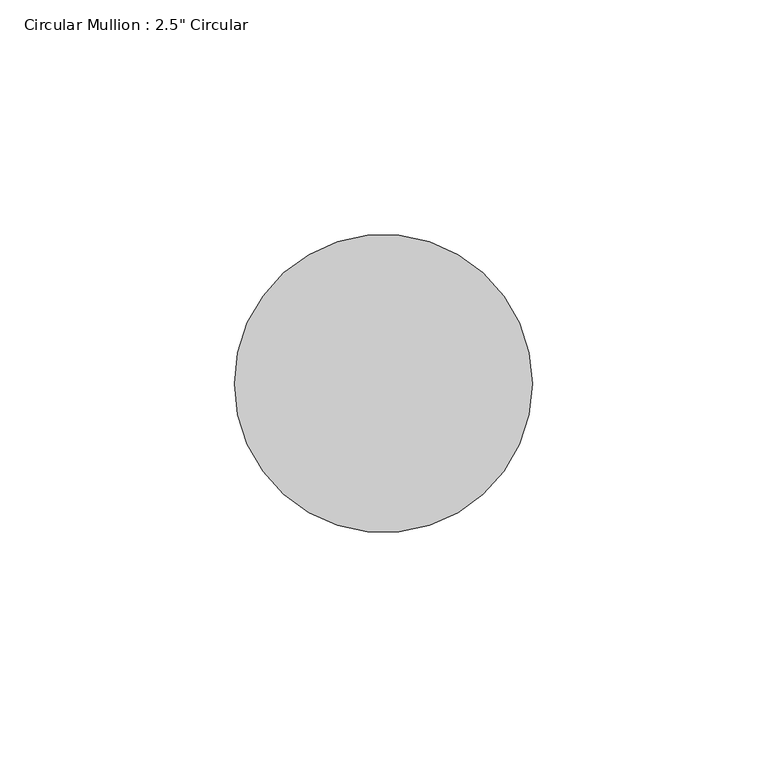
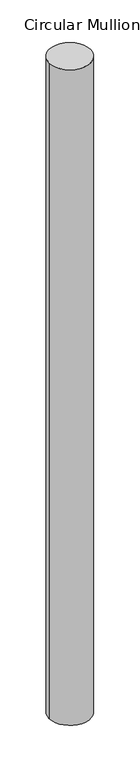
"""IFC4 building model written with IfcOpenShell, lengths in millimetres: member geometry."""

from ifc_helpers import new_model, si_unit, point, frame, frame_2d, origin, place, context, project, spatial, circle_curve, trimmed, segment, composite_curve, outline, extrude, source, transform, mapped, element, save


def member_3e583c14(model_context):
    return source(origin(), model_context, "Body", "SweptSolid", [
        extrude(outline(composite_curve([segment(trimmed(circle_curve(frame_2d((-31.75, 0.0)), 31.75), [point((0.0, 0.0))], [point((-63.5, 0.0))], False, "CARTESIAN"), True, "CONTINUOUS"), segment(trimmed(circle_curve(frame_2d((-31.75, 0.0)), 31.75), [point((-63.5, 0.0))], [point((0.0, 0.0))], False, "CARTESIAN"), True, "CONTINUOUS")], self_intersect=False)), frame((0.0, 0.0, -1065.9737489), z_axis=(0.0, 0.0, 1.0), x_axis=(1.0, 0.0, 0.0)), (0.0, 0.0, 1.0), 1065.9737489),
    ])


if __name__ == "__main__":
    model = new_model("IFC4")
    model_context = context("Model", 3, world=origin())
    ifc_project = project(units=[si_unit("LENGTHUNIT", "METRE", prefix="MILLI")], contexts=[model_context])
    site = spatial("IfcSite", under=ifc_project)
    building = spatial("IfcBuilding", under=site)
    placement = place(None, origin())
    member_shape = member_3e583c14(model_context)
    element("IfcMember", 1, ObjectType="Circular Mullion : 2.5\" Circular", at=placement, inside=building, context=model_context, shape_type="MappedRepresentation", body=[
        mapped(member_shape, transform((0.0, 0.0, 0.0), x_axis=(1.0, 0.0, 0.0), y_axis=(0.0, 1.0, 0.0), z_axis=(0.0, 0.0, 1.0))),
    ])
    save(model, "model.ifc")
